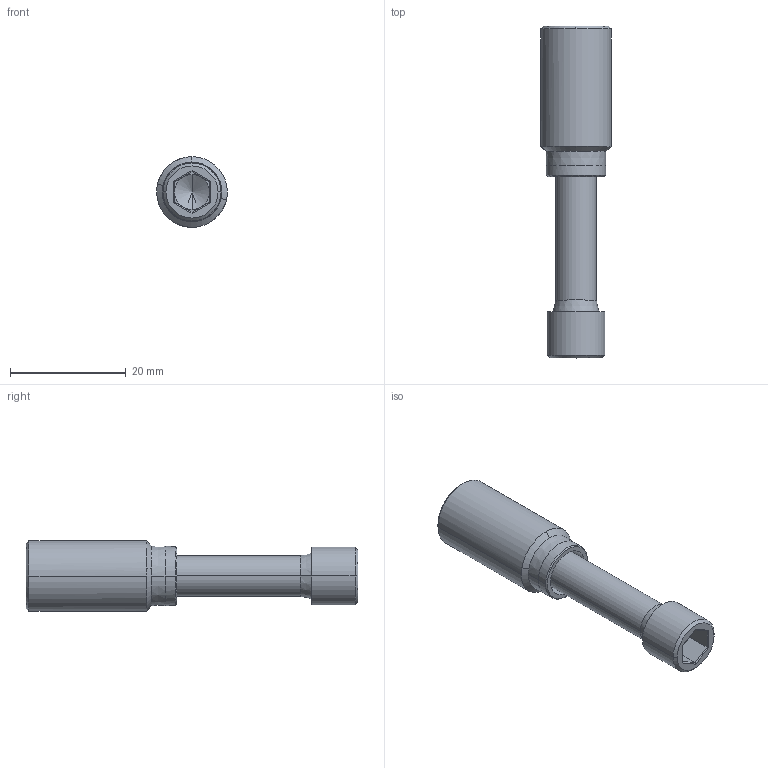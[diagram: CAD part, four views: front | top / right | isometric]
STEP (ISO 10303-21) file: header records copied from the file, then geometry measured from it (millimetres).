
FILE_DESCRIPTION (( 'STEP AP214' ), '1' );
FILE_NAME ('fath_099h102.STEP', '2015-06-03T11:35:44', ( '' ), ( '' ), 'SwSTEP 2.0', 'SolidWorks 2015', '' );
FILE_SCHEMA (( 'AUTOMOTIVE_DESIGN' ));
Length unit declared in the file: millimetre
Products named in the file (1): fath_099h102
Bounding box: 12.2 x 57.3 x 12.2 mm (x, y, z)
Volume: 3477.1 mm3; surface area: 3088.4 mm2
Topology: 2 solids, 2 shells, 69 faces, 169 edges, 104 vertices
Faces by surface type: cylinder 26, plane 23, cone 20
Entity records: 2836 total; most frequent: DIRECTION 386, CARTESIAN_POINT 359, ORIENTED_EDGE 334, EDGE_CURVE 167, AXIS2_PLACEMENT_3D 155, VERTEX_POINT 104, CIRCLE 85, LINE 76
